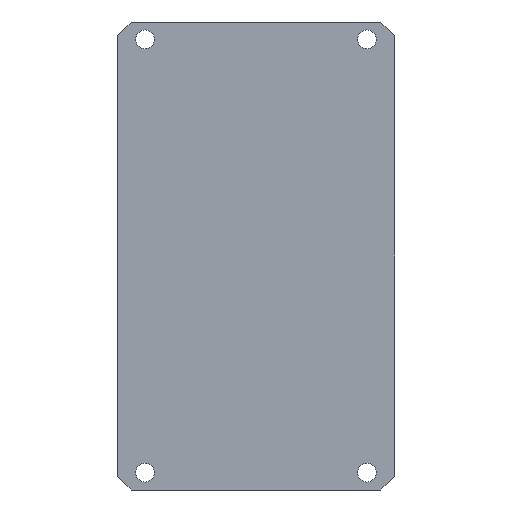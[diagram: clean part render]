
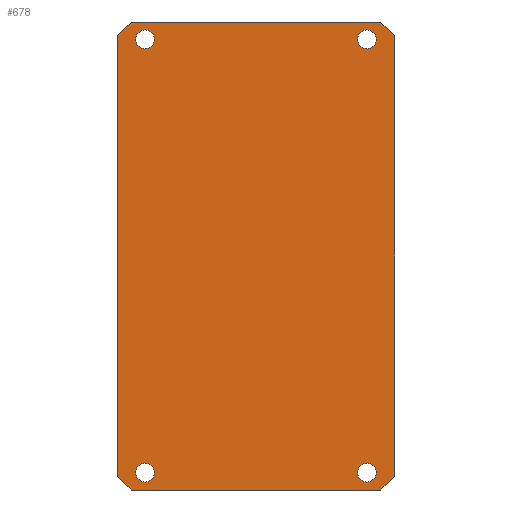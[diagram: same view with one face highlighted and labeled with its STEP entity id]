
A CAD part, front view. The second image highlights one B-rep face of the part: STEP entity #678.
In plain terms, the highlighted planar face has unit normal (0, -1, 0).
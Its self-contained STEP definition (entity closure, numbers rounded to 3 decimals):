
#40=LINE('',#1102,#92);
#47=LINE('',#1117,#99);
#50=LINE('',#1122,#102);
#51=LINE('',#1125,#103);
#58=LINE('',#1137,#110);
#59=LINE('',#1139,#111);
#60=LINE('',#1142,#112);
#61=LINE('',#1143,#113);
#92=VECTOR('',#908,10.);
#99=VECTOR('',#919,10.);
#102=VECTOR('',#924,10.);
#103=VECTOR('',#927,10.);
#110=VECTOR('',#938,10.);
#111=VECTOR('',#941,10.);
#112=VECTOR('',#944,10.);
#113=VECTOR('',#945,10.);
#139=PLANE('',#760);
#163=FACE_BOUND('',#267,.T.);
#164=FACE_BOUND('',#268,.T.);
#165=FACE_BOUND('',#269,.T.);
#166=FACE_BOUND('',#270,.T.);
#207=FACE_OUTER_BOUND('',#266,.T.);
#266=EDGE_LOOP('',(#573,#574,#575,#576,#577,#578,#579,#580));
#267=EDGE_LOOP('',(#581));
#268=EDGE_LOOP('',(#582));
#269=EDGE_LOOP('',(#583));
#270=EDGE_LOOP('',(#584));
#309=CIRCLE('',#742,1.35);
#311=CIRCLE('',#745,1.35);
#313=CIRCLE('',#748,1.35);
#315=CIRCLE('',#751,1.35);
#355=VERTEX_POINT('',#1077);
#357=VERTEX_POINT('',#1082);
#359=VERTEX_POINT('',#1087);
#361=VERTEX_POINT('',#1092);
#363=VERTEX_POINT('',#1096);
#365=VERTEX_POINT('',#1100);
#370=VERTEX_POINT('',#1114);
#371=VERTEX_POINT('',#1116);
#372=VERTEX_POINT('',#1120);
#373=VERTEX_POINT('',#1124);
#376=VERTEX_POINT('',#1135);
#377=VERTEX_POINT('',#1141);
#424=EDGE_CURVE('',#355,#355,#309,.T.);
#426=EDGE_CURVE('',#357,#357,#311,.T.);
#428=EDGE_CURVE('',#359,#359,#313,.T.);
#430=EDGE_CURVE('',#361,#361,#315,.T.);
#434=EDGE_CURVE('',#365,#363,#40,.T.);
#441=EDGE_CURVE('',#370,#371,#47,.T.);
#444=EDGE_CURVE('',#371,#372,#50,.T.);
#445=EDGE_CURVE('',#372,#373,#51,.T.);
#452=EDGE_CURVE('',#373,#376,#58,.T.);
#453=EDGE_CURVE('',#376,#365,#59,.T.);
#454=EDGE_CURVE('',#363,#377,#60,.T.);
#455=EDGE_CURVE('',#377,#370,#61,.T.);
#573=ORIENTED_EDGE('',*,*,#454,.F.);
#574=ORIENTED_EDGE('',*,*,#434,.F.);
#575=ORIENTED_EDGE('',*,*,#453,.F.);
#576=ORIENTED_EDGE('',*,*,#452,.F.);
#577=ORIENTED_EDGE('',*,*,#445,.F.);
#578=ORIENTED_EDGE('',*,*,#444,.F.);
#579=ORIENTED_EDGE('',*,*,#441,.F.);
#580=ORIENTED_EDGE('',*,*,#455,.F.);
#581=ORIENTED_EDGE('',*,*,#430,.T.);
#582=ORIENTED_EDGE('',*,*,#428,.T.);
#583=ORIENTED_EDGE('',*,*,#424,.T.);
#584=ORIENTED_EDGE('',*,*,#426,.T.);
#678=ADVANCED_FACE('',(#207,#163,#164,#165,#166),#139,.T.);
#742=AXIS2_PLACEMENT_3D('',#1078,#883,#884);
#745=AXIS2_PLACEMENT_3D('',#1083,#889,#890);
#748=AXIS2_PLACEMENT_3D('',#1088,#895,#896);
#751=AXIS2_PLACEMENT_3D('',#1093,#901,#902);
#760=AXIS2_PLACEMENT_3D('',#1140,#942,#943);
#883=DIRECTION('center_axis',(0.,1.,0.));
#884=DIRECTION('ref_axis',(1.,0.,0.));
#889=DIRECTION('center_axis',(0.,1.,0.));
#890=DIRECTION('ref_axis',(1.,0.,0.));
#895=DIRECTION('center_axis',(0.,1.,0.));
#896=DIRECTION('ref_axis',(1.,0.,0.));
#901=DIRECTION('center_axis',(0.,1.,0.));
#902=DIRECTION('ref_axis',(1.,0.,0.));
#908=DIRECTION('',(-1.,0.,0.));
#919=DIRECTION('',(0.707,0.,0.707));
#924=DIRECTION('',(1.,0.,0.));
#927=DIRECTION('',(0.707,0.,-0.707));
#938=DIRECTION('',(0.,0.,-1.));
#941=DIRECTION('',(-0.707,0.,-0.707));
#942=DIRECTION('center_axis',(0.,-1.,0.));
#943=DIRECTION('ref_axis',(0.,0.,-1.));
#944=DIRECTION('',(-0.707,0.,0.707));
#945=DIRECTION('',(0.,0.,1.));
#1077=CARTESIAN_POINT('',(-5.35,0.,-65.));
#1078=CARTESIAN_POINT('Origin',(-4.,0.,-65.));
#1082=CARTESIAN_POINT('',(-37.35,0.,-65.));
#1083=CARTESIAN_POINT('Origin',(-36.,0.,-65.));
#1087=CARTESIAN_POINT('',(-37.35,0.,-2.5));
#1088=CARTESIAN_POINT('Origin',(-36.,0.,-2.5));
#1092=CARTESIAN_POINT('',(-5.35,0.,-2.5));
#1093=CARTESIAN_POINT('Origin',(-4.,0.,-2.5));
#1096=CARTESIAN_POINT('',(-38.,0.,-67.5));
#1100=CARTESIAN_POINT('',(-2.,0.,-67.5));
#1102=CARTESIAN_POINT('',(0.,0.,-67.5));
#1114=CARTESIAN_POINT('',(-40.,0.,-2.));
#1116=CARTESIAN_POINT('',(-38.,0.,0.));
#1117=CARTESIAN_POINT('',(-43.063,0.,-5.062));
#1120=CARTESIAN_POINT('',(-2.,0.,0.));
#1122=CARTESIAN_POINT('',(-40.,0.,0.));
#1124=CARTESIAN_POINT('',(0.,0.,-2.));
#1125=CARTESIAN_POINT('',(3.062,0.,-5.062));
#1135=CARTESIAN_POINT('',(0.,0.,-65.5));
#1137=CARTESIAN_POINT('',(0.,0.,-5.));
#1139=CARTESIAN_POINT('',(1.812,0.,-63.688));
#1140=CARTESIAN_POINT('Origin',(-20.,0.,-36.25));
#1141=CARTESIAN_POINT('',(-40.,0.,-65.5));
#1142=CARTESIAN_POINT('',(-41.813,0.,-63.688));
#1143=CARTESIAN_POINT('',(-40.,0.,-67.5));
